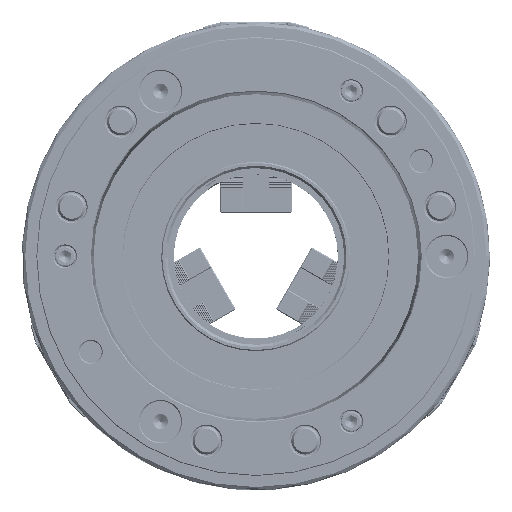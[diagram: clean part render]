
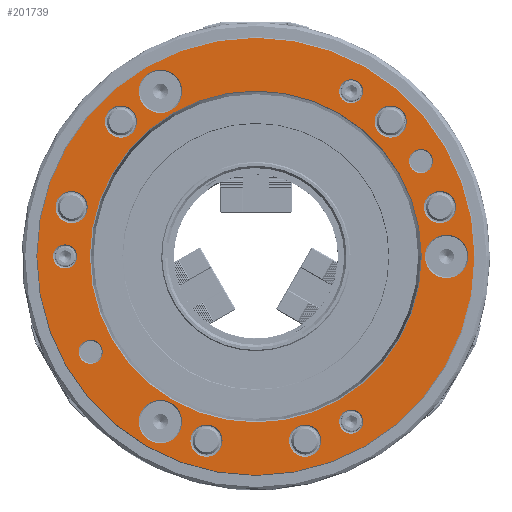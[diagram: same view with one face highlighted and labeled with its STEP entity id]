
A CAD part, front view. The second image highlights one B-rep face of the part: STEP entity #201739.
In plain terms, the highlighted planar face has unit normal (0, -1, 0).
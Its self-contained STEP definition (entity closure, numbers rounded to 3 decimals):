
#55762=FACE_BOUND('',#73403,.T.);
#55763=FACE_BOUND('',#73404,.T.);
#55764=FACE_BOUND('',#73405,.T.);
#55765=FACE_BOUND('',#73406,.T.);
#55766=FACE_BOUND('',#73407,.T.);
#55767=FACE_BOUND('',#73408,.T.);
#55768=FACE_BOUND('',#73409,.T.);
#55769=FACE_BOUND('',#73410,.T.);
#55770=FACE_BOUND('',#73411,.T.);
#55771=FACE_BOUND('',#73412,.T.);
#55772=FACE_BOUND('',#73413,.T.);
#55773=FACE_BOUND('',#73414,.T.);
#55774=FACE_BOUND('',#73415,.T.);
#55775=FACE_BOUND('',#73416,.T.);
#55776=FACE_BOUND('',#73417,.T.);
#63918=FACE_OUTER_BOUND('',#73402,.T.);
#73402=EDGE_LOOP('',(#182417));
#73403=EDGE_LOOP('',(#182418));
#73404=EDGE_LOOP('',(#182419));
#73405=EDGE_LOOP('',(#182420));
#73406=EDGE_LOOP('',(#182421));
#73407=EDGE_LOOP('',(#182422));
#73408=EDGE_LOOP('',(#182423));
#73409=EDGE_LOOP('',(#182424));
#73410=EDGE_LOOP('',(#182425));
#73411=EDGE_LOOP('',(#182426));
#73412=EDGE_LOOP('',(#182427));
#73413=EDGE_LOOP('',(#182428));
#73414=EDGE_LOOP('',(#182429));
#73415=EDGE_LOOP('',(#182430));
#73416=EDGE_LOOP('',(#182431));
#73417=EDGE_LOOP('',(#182432));
#76039=CIRCLE('',#216453,189.25);
#76042=CIRCLE('',#216457,143.637);
#76043=CIRCLE('',#216459,13.9);
#76044=CIRCLE('',#216461,13.9);
#76045=CIRCLE('',#216463,13.9);
#76046=CIRCLE('',#216465,13.9);
#76047=CIRCLE('',#216467,13.9);
#76048=CIRCLE('',#216469,13.9);
#76049=CIRCLE('',#216471,10.4);
#76050=CIRCLE('',#216473,10.4);
#76051=CIRCLE('',#216475,10.4);
#76052=CIRCLE('',#216477,10.4);
#76053=CIRCLE('',#216479,10.4);
#76054=CIRCLE('',#216481,18.75);
#76055=CIRCLE('',#216483,18.75);
#76056=CIRCLE('',#216485,18.75);
#94746=VERTEX_POINT('',#325937);
#94749=VERTEX_POINT('',#325944);
#94750=VERTEX_POINT('',#325947);
#94751=VERTEX_POINT('',#325950);
#94752=VERTEX_POINT('',#325953);
#94753=VERTEX_POINT('',#325956);
#94754=VERTEX_POINT('',#325959);
#94755=VERTEX_POINT('',#325962);
#94756=VERTEX_POINT('',#325965);
#94757=VERTEX_POINT('',#325968);
#94758=VERTEX_POINT('',#325971);
#94759=VERTEX_POINT('',#325974);
#94760=VERTEX_POINT('',#325977);
#94761=VERTEX_POINT('',#325980);
#94762=VERTEX_POINT('',#325983);
#94763=VERTEX_POINT('',#325986);
#124304=EDGE_CURVE('',#94746,#94746,#76039,.T.);
#124307=EDGE_CURVE('',#94749,#94749,#76042,.T.);
#124308=EDGE_CURVE('',#94750,#94750,#76043,.T.);
#124309=EDGE_CURVE('',#94751,#94751,#76044,.T.);
#124310=EDGE_CURVE('',#94752,#94752,#76045,.T.);
#124311=EDGE_CURVE('',#94753,#94753,#76046,.T.);
#124312=EDGE_CURVE('',#94754,#94754,#76047,.T.);
#124313=EDGE_CURVE('',#94755,#94755,#76048,.T.);
#124314=EDGE_CURVE('',#94756,#94756,#76049,.T.);
#124315=EDGE_CURVE('',#94757,#94757,#76050,.T.);
#124316=EDGE_CURVE('',#94758,#94758,#76051,.T.);
#124317=EDGE_CURVE('',#94759,#94759,#76052,.T.);
#124318=EDGE_CURVE('',#94760,#94760,#76053,.T.);
#124319=EDGE_CURVE('',#94761,#94761,#76054,.T.);
#124320=EDGE_CURVE('',#94762,#94762,#76055,.T.);
#124321=EDGE_CURVE('',#94763,#94763,#76056,.T.);
#182417=ORIENTED_EDGE('',*,*,#124304,.T.);
#182418=ORIENTED_EDGE('',*,*,#124321,.T.);
#182419=ORIENTED_EDGE('',*,*,#124320,.T.);
#182420=ORIENTED_EDGE('',*,*,#124319,.T.);
#182421=ORIENTED_EDGE('',*,*,#124318,.T.);
#182422=ORIENTED_EDGE('',*,*,#124317,.T.);
#182423=ORIENTED_EDGE('',*,*,#124316,.T.);
#182424=ORIENTED_EDGE('',*,*,#124315,.T.);
#182425=ORIENTED_EDGE('',*,*,#124314,.T.);
#182426=ORIENTED_EDGE('',*,*,#124313,.T.);
#182427=ORIENTED_EDGE('',*,*,#124312,.T.);
#182428=ORIENTED_EDGE('',*,*,#124311,.T.);
#182429=ORIENTED_EDGE('',*,*,#124310,.T.);
#182430=ORIENTED_EDGE('',*,*,#124309,.T.);
#182431=ORIENTED_EDGE('',*,*,#124308,.T.);
#182432=ORIENTED_EDGE('',*,*,#124307,.T.);
#193202=PLANE('',#216488);
#201739=ADVANCED_FACE('',(#63918,#55762,#55763,#55764,#55765,#55766,#55767,
#55768,#55769,#55770,#55771,#55772,#55773,#55774,#55775,#55776),#193202,
 .T.);
#216453=AXIS2_PLACEMENT_3D('',#325938,#266159,#266160);
#216457=AXIS2_PLACEMENT_3D('',#325945,#266167,#266168);
#216459=AXIS2_PLACEMENT_3D('',#325948,#266171,#266172);
#216461=AXIS2_PLACEMENT_3D('',#325951,#266175,#266176);
#216463=AXIS2_PLACEMENT_3D('',#325954,#266179,#266180);
#216465=AXIS2_PLACEMENT_3D('',#325957,#266183,#266184);
#216467=AXIS2_PLACEMENT_3D('',#325960,#266187,#266188);
#216469=AXIS2_PLACEMENT_3D('',#325963,#266191,#266192);
#216471=AXIS2_PLACEMENT_3D('',#325966,#266195,#266196);
#216473=AXIS2_PLACEMENT_3D('',#325969,#266199,#266200);
#216475=AXIS2_PLACEMENT_3D('',#325972,#266203,#266204);
#216477=AXIS2_PLACEMENT_3D('',#325975,#266207,#266208);
#216479=AXIS2_PLACEMENT_3D('',#325978,#266211,#266212);
#216481=AXIS2_PLACEMENT_3D('',#325981,#266215,#266216);
#216483=AXIS2_PLACEMENT_3D('',#325984,#266219,#266220);
#216485=AXIS2_PLACEMENT_3D('',#325987,#266223,#266224);
#216488=AXIS2_PLACEMENT_3D('',#325991,#266229,#266230);
#266159=DIRECTION('center_axis',(0.,-1.,0.));
#266160=DIRECTION('ref_axis',(-0.096,0.,
-0.995));
#266167=DIRECTION('center_axis',(0.,1.,0.));
#266168=DIRECTION('ref_axis',(0.91,0.,-0.414));
#266171=DIRECTION('center_axis',(0.,1.,0.));
#266172=DIRECTION('ref_axis',(0.91,0.,-0.414));
#266175=DIRECTION('center_axis',(0.,1.,0.));
#266176=DIRECTION('ref_axis',(0.91,0.,-0.414));
#266179=DIRECTION('center_axis',(0.,1.,0.));
#266180=DIRECTION('ref_axis',(-0.814,0.,-0.581));
#266183=DIRECTION('center_axis',(0.,1.,0.));
#266184=DIRECTION('ref_axis',(-0.814,0.,-0.581));
#266187=DIRECTION('center_axis',(0.,1.,0.));
#266188=DIRECTION('ref_axis',(-0.096,0.,
0.995));
#266191=DIRECTION('center_axis',(0.,1.,0.));
#266192=DIRECTION('ref_axis',(-0.096,0.,
0.995));
#266195=DIRECTION('center_axis',(0.,1.,0.));
#266196=DIRECTION('ref_axis',(0.91,0.,-0.414));
#266199=DIRECTION('center_axis',(0.,1.,0.));
#266200=DIRECTION('ref_axis',(-0.91,0.,0.414));
#266203=DIRECTION('center_axis',(0.,1.,0.));
#266204=DIRECTION('ref_axis',(0.91,0.,-0.414));
#266207=DIRECTION('center_axis',(0.,1.,0.));
#266208=DIRECTION('ref_axis',(-0.814,0.,-0.581));
#266211=DIRECTION('center_axis',(0.,1.,0.));
#266212=DIRECTION('ref_axis',(-0.096,0.,0.995));
#266215=DIRECTION('center_axis',(0.,1.,0.));
#266216=DIRECTION('ref_axis',(0.91,0.,-0.414));
#266219=DIRECTION('center_axis',(0.,1.,0.));
#266220=DIRECTION('ref_axis',(-0.814,0.,-0.581));
#266223=DIRECTION('center_axis',(0.,1.,0.));
#266224=DIRECTION('ref_axis',(-0.096,0.,
0.995));
#266229=DIRECTION('center_axis',(0.,-1.,0.));
#266230=DIRECTION('ref_axis',(0.,0.,-1.));
#325937=CARTESIAN_POINT('',(94.625,-21.,-163.895));
#325938=CARTESIAN_POINT('Origin',(0.,-21.,
0.));
#325944=CARTESIAN_POINT('',(71.818,-21.,-124.393));
#325945=CARTESIAN_POINT('Origin',(0.,-21.,
0.));
#325947=CARTESIAN_POINT('',(-152.524,-21.,30.693));
#325948=CARTESIAN_POINT('Origin',(-159.474,-21.,42.731));
#325950=CARTESIAN_POINT('',(-109.793,-21.,104.706));
#325951=CARTESIAN_POINT('Origin',(-116.743,-21.,116.743));
#325953=CARTESIAN_POINT('',(102.843,-21.,116.743));
#325954=CARTESIAN_POINT('Origin',(116.743,-21.,116.743));
#325956=CARTESIAN_POINT('',(145.574,-21.,42.731));
#325957=CARTESIAN_POINT('Origin',(159.474,-21.,42.731));
#325959=CARTESIAN_POINT('',(49.681,-21.,-147.437));
#325960=CARTESIAN_POINT('Origin',(42.731,-21.,-159.474));
#325962=CARTESIAN_POINT('',(-35.781,-21.,-147.437));
#325963=CARTESIAN_POINT('Origin',(-42.731,-21.,-159.474));
#325965=CARTESIAN_POINT('',(148.181,-21.,73.543));
#325966=CARTESIAN_POINT('Origin',(142.981,-21.,82.55));
#325968=CARTESIAN_POINT('',(-148.181,-21.,-73.543));
#325969=CARTESIAN_POINT('Origin',(-142.981,-21.,-82.55));
#325971=CARTESIAN_POINT('',(87.75,-21.,133.974));
#325972=CARTESIAN_POINT('Origin',(82.55,-21.,142.981));
#325974=CARTESIAN_POINT('',(72.15,-21.,-142.981));
#325975=CARTESIAN_POINT('Origin',(82.55,-21.,-142.981));
#325977=CARTESIAN_POINT('',(-159.9,-21.,9.007));
#325978=CARTESIAN_POINT('Origin',(-165.1,-21.,0.));
#325980=CARTESIAN_POINT('',(174.475,-21.,-16.238));
#325981=CARTESIAN_POINT('Origin',(165.1,-21.,0.));
#325983=CARTESIAN_POINT('',(-101.3,-21.,-142.981));
#325984=CARTESIAN_POINT('Origin',(-82.55,-21.,-142.981));
#325986=CARTESIAN_POINT('',(-73.175,-21.,159.219));
#325987=CARTESIAN_POINT('Origin',(-82.55,-21.,142.981));
#325991=CARTESIAN_POINT('Origin',(-94.63,-21.,163.904));
